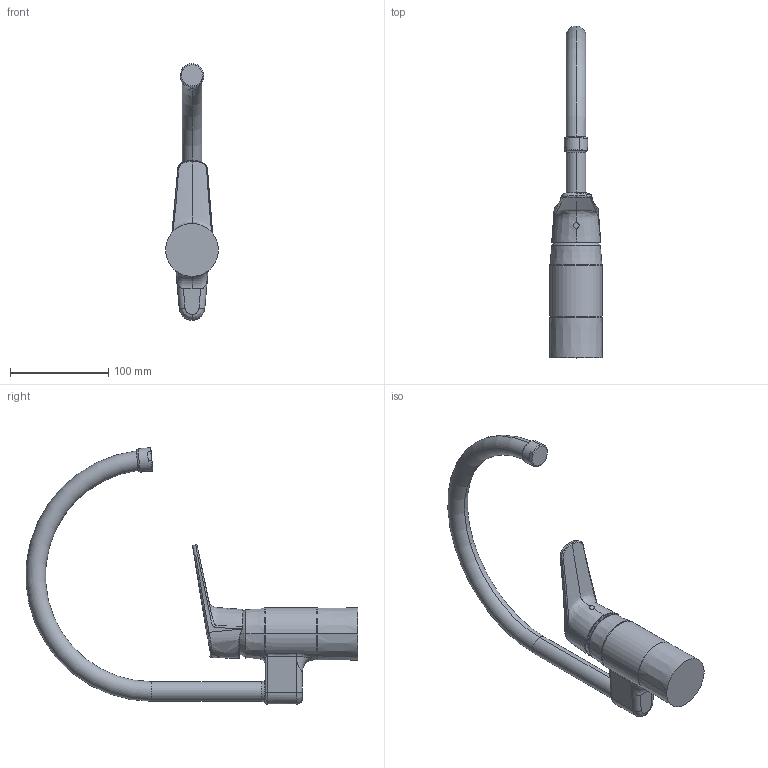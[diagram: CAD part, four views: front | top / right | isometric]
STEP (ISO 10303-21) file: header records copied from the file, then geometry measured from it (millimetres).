
FILE_DESCRIPTION (( 'STEP AP203' ), '1' );
FILE_NAME ('1838FG(2018).STEP', '2020-12-02T11:51:57', ( '' ), ( '' ), 'SwSTEP 2.0', 'SolidWorks 2016', '' );
FILE_SCHEMA (( 'CONFIG_CONTROL_DESIGN' ));
Length unit declared in the file: millimetre
Products named in the file (1): 1838FG(2018)
Bounding box: 53.73 x 337.91 x 261.35 mm (x, y, z)
Volume: 541421.4 mm3; surface area: 70864.1 mm2
Topology: 1 solids, 1 shells, 146 faces, 375 edges, 236 vertices
Faces by surface type: bspline 76, cylinder 27, plane 19, torus 13, cone 10, sphere 1
Entity records: 23410 total; most frequent: CARTESIAN_POINT 20494, ORIENTED_EDGE 748, EDGE_CURVE 374, DIRECTION 361, VERTEX_POINT 236, B_SPLINE_CURVE_WITH_KNOTS 225, AXIS2_PLACEMENT_3D 158, EDGE_LOOP 152
